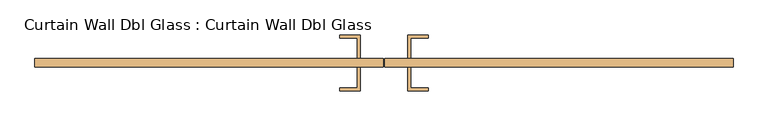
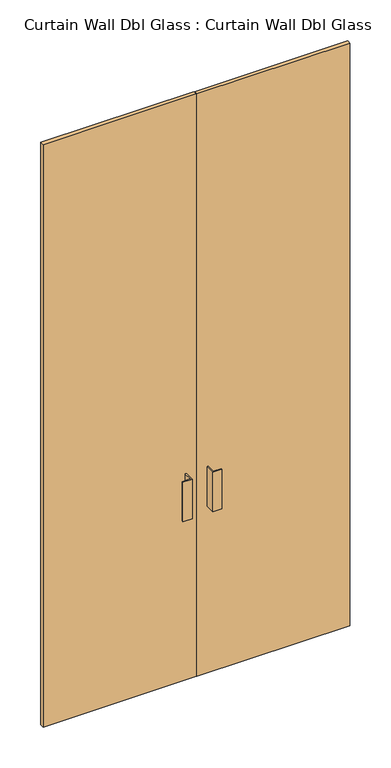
"""IFC4 building model written with IfcOpenShell, lengths in millimetres: door geometry, Curtain Wall Dbl Glass : Curtain Wall Dbl Glass."""

import ifcopenshell
import ifcopenshell.guid

model = None  # the IFC model being written
_history = None  # IfcOwnerHistory: only IFC2X3 demands one
_inside = {}  # id of a spatial element -> (the spatial element, [elements in it])
_under = {}  # id of a project, library or spatial element -> (it, [spatial elements below it])
_declared = {}  # id of a project -> (the project, [libraries it declares])
_typed = {}  # id of a type object -> (the type object, [elements of that type])
_made_of = {}  # id of a material, layer set ... -> (it, [elements and type objects made of it])


def new_model(schema):
    """Start an empty IFC model of exactly this schema.

    Asked for "IFC4X3", IfcOpenShell would pick the latest addendum, in which some entities
    have other attributes; the version numbers below select the first issue.
    IFC2X3 requires an IfcOwnerHistory on every rooted entity: one is made here for all.
    """
    global model, _history
    if schema == "IFC4X3":
        model = ifcopenshell.file(schema_version=(4, 3, 0, 0))
    else:
        model = ifcopenshell.file(schema=schema)
    _inside.clear()
    _under.clear()
    _declared.clear()
    _typed.clear()
    _made_of.clear()
    _history = None
    if model.schema == "IFC2X3":
        org = make("IfcOrganization", Name="unknown")
        user = make(
            "IfcPersonAndOrganization",
            ThePerson=make("IfcPerson", FamilyName="unknown"),
            TheOrganization=org,
        )
        app = make(
            "IfcApplication",
            ApplicationDeveloper=org,
            Version="unknown",
            ApplicationFullName="unknown",
            ApplicationIdentifier="unknown",
        )
        _history = make(
            "IfcOwnerHistory",
            OwningUser=user,
            OwningApplication=app,
            ChangeAction="ADDED",
            CreationDate=0,
        )
    return model


def make(cls, **values):
    """One entity of the class cls with the attributes given. An attribute that is None is left unset."""
    return model.create_entity(
        cls, **{name: value for name, value in values.items() if value is not None}
    )


def rooted(cls, **values):
    """An entity with a GlobalId (a new one), such as an element, a storey or a relation."""
    return make(cls, GlobalId=ifcopenshell.guid.new(), OwnerHistory=_history, **values)


def si_unit(unit_type, name, prefix=None):
    """IfcSIUnit, for example si_unit("LENGTHUNIT", "METRE", prefix="MILLI")."""
    return make("IfcSIUnit", UnitType=unit_type, Prefix=prefix, Name=name)


def assignment(units):
    """IfcUnitAssignment: the units of a project."""
    return None if units is None else make("IfcUnitAssignment", Units=units)


def point(xyz):
    """IfcCartesianPoint."""
    return None if xyz is None else make("IfcCartesianPoint", Coordinates=xyz)


def direction(xyz):
    """IfcDirection."""
    return None if xyz is None else make("IfcDirection", DirectionRatios=xyz)


def frame(location, z_axis=None, x_axis=None):
    """IfcAxis2Placement3D, a coordinate frame: its origin and axes. An axis left out is left unset."""
    return make(
        "IfcAxis2Placement3D",
        Location=point(location),
        Axis=direction(z_axis),
        RefDirection=direction(x_axis),
    )


def origin():
    """The frame at (0, 0, 0) with its axes left unset."""
    return frame((0.0, 0.0, 0.0))


def origin_with_axes():
    """The frame at (0, 0, 0) with the z axis (0, 0, 1) and the x axis (1, 0, 0) written out."""
    return frame((0.0, 0.0, 0.0), z_axis=(0.0, 0.0, 1.0), x_axis=(1.0, 0.0, 0.0))


def place(relative_to, where):
    """IfcLocalPlacement: puts the frame where relative to a parent placement (None: the world)."""
    return make(
        "IfcLocalPlacement", PlacementRelTo=relative_to, RelativePlacement=where
    )


def context(
    kind, dimensions, precision=None, world=None, true_north=None, identifier=None
):
    """IfcGeometricRepresentationContext, for example the 3D "Model" context."""
    return make(
        "IfcGeometricRepresentationContext",
        ContextIdentifier=identifier,
        ContextType=kind,
        CoordinateSpaceDimension=dimensions,
        Precision=precision,
        WorldCoordinateSystem=world,
        TrueNorth=true_north,
    )


def project(units=None, contexts=None):
    """IfcProject with its units and contexts."""
    return rooted(
        "IfcProject",
        Name="project",
        RepresentationContexts=contexts,
        UnitsInContext=assignment(units),
    )


def spatial(cls, under=None, at=None, **own):
    """A site, building, storey or space (cls), placed at a placement, below another one or the project."""
    s = rooted(cls, ObjectPlacement=at, **own)
    if under is not None:
        _under.setdefault(under.id(), (under, []))[1].append(s)
    return s


def polyline(points):
    """IfcPolyline through the points."""
    return make("IfcPolyline", Points=[point(p) for p in points])


def outline(outer, holes=None, kind="AREA"):
    """IfcArbitraryClosedProfileDef: a profile drawn as a closed curve; with holes, ...WithVoids."""
    if holes is None:
        return make("IfcArbitraryClosedProfileDef", ProfileType=kind, OuterCurve=outer)
    return make(
        "IfcArbitraryProfileDefWithVoids",
        ProfileType=kind,
        OuterCurve=outer,
        InnerCurves=holes,
    )


def extrude(swept, where, along, depth):
    """IfcExtrudedAreaSolid: the profile swept, set in the frame where, extruded along a direction by depth."""
    return make(
        "IfcExtrudedAreaSolid",
        SweptArea=swept,
        Position=where,
        ExtrudedDirection=direction(along),
        Depth=depth,
    )


def shape(context_of_items, identifier, shape_type, items):
    """IfcShapeRepresentation: the items that make up one representation, for example the "Body"."""
    return make(
        "IfcShapeRepresentation",
        ContextOfItems=context_of_items,
        RepresentationIdentifier=identifier,
        RepresentationType=shape_type,
        Items=items,
    )


def source(mapping_origin, context_of_items, identifier, shape_type, items):
    """IfcRepresentationMap: a shape defined once, which mapped items show again and again."""
    return make(
        "IfcRepresentationMap",
        MappingOrigin=mapping_origin,
        MappedRepresentation=shape(context_of_items, identifier, shape_type, items),
    )


def transform(
    local_origin,
    x_axis=None,
    y_axis=None,
    z_axis=None,
    scale=None,
    scale2=None,
    scale3=None,
    uniform=True,
):
    """IfcCartesianTransformationOperator3D, or its non-uniform kind. x_axis, y_axis, z_axis: its Axis1, 2, 3."""
    if uniform:
        return make(
            "IfcCartesianTransformationOperator3D",
            Axis1=direction(x_axis),
            Axis2=direction(y_axis),
            LocalOrigin=point(local_origin),
            Scale=scale,
            Axis3=direction(z_axis),
        )
    return make(
        "IfcCartesianTransformationOperator3DnonUniform",
        Axis1=direction(x_axis),
        Axis2=direction(y_axis),
        LocalOrigin=point(local_origin),
        Scale=scale,
        Axis3=direction(z_axis),
        Scale2=scale2,
        Scale3=scale3,
    )


def mapped(mapping_source, mapping_target):
    """IfcMappedItem: shows the shape of a source again, moved by a transform."""
    return make(
        "IfcMappedItem", MappingSource=mapping_source, MappingTarget=mapping_target
    )


def made_of(thing, what):
    """Note that an element or type object is made of a material, layer set ...; save() writes the relation."""
    if what is not None:
        _made_of.setdefault(what.id(), (what, []))[1].append(thing)
    return thing


def element(
    cls,
    number,
    at=None,
    inside=None,
    cuts=None,
    type_object=None,
    material=None,
    context=None,
    identifier="Body",
    shape_type=None,
    held_by="IfcProductDefinitionShape",
    body=None,
    shapes=None,
    **own,
):
    """One element of the class cls, such as IfcWall. Its Tag is "e" and its number.

    at: its placement. inside: the storey or other place that contains it. cuts: it is an
    opening in that element (IfcRelVoidsElement). A single representation is given by context,
    identifier, shape_type and body (its items); several are given by shapes. held_by: the class
    of the entity that holds the representations. save() writes the other relations.
    """
    e = rooted(cls, Tag="e%d" % number, ObjectPlacement=at, **own)
    if body is not None:
        shapes = [shape(context, identifier, shape_type, body)]
    if shapes is not None:
        e.Representation = make(held_by, Representations=shapes)
    if inside is not None:
        _inside.setdefault(inside.id(), (inside, []))[1].append(e)
    if cuts is not None:
        rooted(
            "IfcRelVoidsElement", RelatingBuildingElement=cuts, RelatedOpeningElement=e
        )
    if type_object is not None:
        _typed.setdefault(type_object.id(), (type_object, []))[1].append(e)
    return made_of(e, material)


def aggregate(whole, parts):
    """IfcRelAggregates: a whole, such as a stair, and the parts it consists of."""
    return rooted("IfcRelAggregates", RelatingObject=whole, RelatedObjects=parts)


def save(model, path):
    """Write the relations noted so far, then the file.

    IfcRelAggregates (storeys below a building ...), IfcRelContainedInSpatialStructure (elements
    in a storey), IfcRelDefinesByType, IfcRelAssociatesMaterial and IfcRelDeclares: one each for
    every whole, place, type object, material and project.
    """
    for whole, parts in _under.values():
        aggregate(whole, parts)
    for where, things in _inside.values():
        rooted(
            "IfcRelContainedInSpatialStructure",
            RelatedElements=things,
            RelatingStructure=where,
        )
    for kind, things in _typed.values():
        rooted("IfcRelDefinesByType", RelatedObjects=things, RelatingType=kind)
    for what, things in _made_of.values():
        rooted("IfcRelAssociatesMaterial", RelatedObjects=things, RelatingMaterial=what)
    for by, libraries in _declared.values():
        rooted("IfcRelDeclares", RelatingContext=by, RelatedDefinitions=libraries)
    model.write(path)


def curtain_wall_dbl_glass_curtain_wall_dbl_glass_35f7ff88(model_context):
    return source(origin(), model_context, "Body", "SweptSolid", [
        extrude(outline(polyline([(-1.5875, -31.75), (-1.5875, -50.8), (-749.3, -50.8), (-749.3, -31.75), (-1.5875, -31.75)])), origin_with_axes(), (0.0, 0.0, 1.0), 3009.9),
        extrude(outline(polyline([(749.3, -31.75), (749.3, -50.8), (1.5875, -50.8), (1.5875, -31.75), (749.3, -31.75)])), origin_with_axes(), (0.0, 0.0, 1.0), 3009.9),
        extrude(outline(polyline([(-50.8, -101.6), (-95.25, -101.6), (-95.25, -95.25), (-57.15, -95.25), (-57.15, -50.8), (-50.8, -50.8), (-50.8, -101.6)])), frame((0.0, 0.0, 863.6), z_axis=(0.0, 0.0, 1.0), x_axis=(1.0, 0.0, 0.0)), (0.0, 0.0, 1.0), 203.2),
        extrude(outline(polyline([(50.8, -101.6), (50.8, -50.8), (57.15, -50.8), (57.15, -95.25), (95.25, -95.25), (95.25, -101.6), (50.8, -101.6)])), frame((0.0, 0.0, 863.6), z_axis=(0.0, 0.0, 1.0), x_axis=(1.0, 0.0, 0.0)), (0.0, 0.0, 1.0), 203.2),
        extrude(outline(polyline([(-50.8, 19.05), (-50.8, -31.75), (-57.15, -31.75), (-57.15, 12.7), (-95.25, 12.7), (-95.25, 19.05), (-50.8, 19.05)])), frame((0.0, 0.0, 863.6), z_axis=(0.0, 0.0, 1.0), x_axis=(1.0, 0.0, 0.0)), (0.0, 0.0, 1.0), 203.2),
        extrude(outline(polyline([(50.8, 19.05), (95.25, 19.05), (95.25, 12.7), (57.15, 12.7), (57.15, -31.75), (50.8, -31.75), (50.8, 19.05)])), frame((0.0, 0.0, 863.6), z_axis=(0.0, 0.0, 1.0), x_axis=(1.0, 0.0, 0.0)), (0.0, 0.0, 1.0), 203.2),
    ])


if __name__ == "__main__":
    model = new_model("IFC4")
    model_context = context("Model", 3, world=origin())
    ifc_project = project(units=[si_unit("LENGTHUNIT", "METRE", prefix="MILLI")], contexts=[model_context])
    site = spatial("IfcSite", under=ifc_project)
    building = spatial("IfcBuilding", under=site)
    placement = place(None, origin())
    curtain_wall_dbl_glass_curtain_wall_dbl_glass_shape = curtain_wall_dbl_glass_curtain_wall_dbl_glass_35f7ff88(model_context)
    element("IfcDoor", 1, ObjectType="Curtain Wall Dbl Glass : Curtain Wall Dbl Glass", at=placement, inside=building, context=model_context, shape_type="MappedRepresentation", body=[
        mapped(curtain_wall_dbl_glass_curtain_wall_dbl_glass_shape, transform((0.0, 0.0, 0.0), x_axis=(1.0, 0.0, 0.0), y_axis=(0.0, 1.0, 0.0), z_axis=(0.0, 0.0, 1.0))),
    ])
    save(model, "model.ifc")
